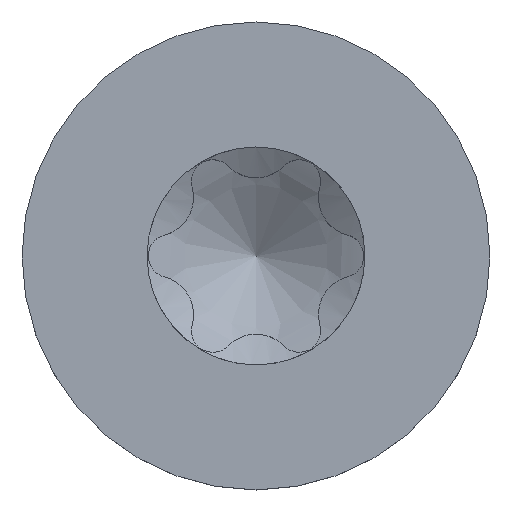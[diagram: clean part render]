
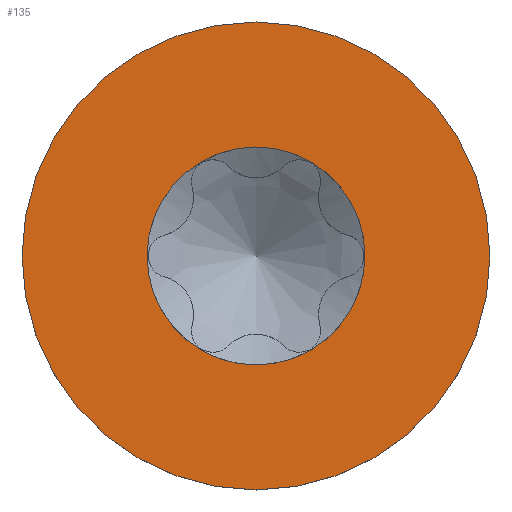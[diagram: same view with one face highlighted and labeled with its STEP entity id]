
A CAD part, top view. The second image highlights one B-rep face of the part: STEP entity #135.
In plain terms, the highlighted planar face has unit normal (0, 0, 1).
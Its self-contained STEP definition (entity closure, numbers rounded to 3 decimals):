
#90=PLANE('',#624);
#117=FACE_BOUND('',#209,.T.);
#118=FACE_BOUND('',#210,.T.);
#135=ADVANCED_FACE('',(#117,#118),#90,.T.);
#209=EDGE_LOOP('',(#286));
#210=EDGE_LOOP('',(#287));
#250=CIRCLE('',#621,1.9);
#251=CIRCLE('',#623,0.885);
#286=ORIENTED_EDGE('',*,*,#500,.T.);
#287=ORIENTED_EDGE('',*,*,#499,.F.);
#439=VERTEX_POINT('',#1172);
#440=VERTEX_POINT('',#1175);
#499=EDGE_CURVE('',#439,#439,#250,.T.);
#500=EDGE_CURVE('',#440,#440,#251,.T.);
#621=AXIS2_PLACEMENT_3D('',#1171,#674,#675);
#623=AXIS2_PLACEMENT_3D('',#1174,#678,#679);
#624=AXIS2_PLACEMENT_3D('',#1176,#680,#681);
#674=DIRECTION('',(0.,0.,-1.));
#675=DIRECTION('',(0.,1.,0.));
#678=DIRECTION('',(0.,0.,-1.));
#679=DIRECTION('',(0.,-1.,0.));
#680=DIRECTION('',(0.,0.,1.));
#681=DIRECTION('',(0.,-1.,0.));
#1171=CARTESIAN_POINT('',(0.,0.,1.5));
#1172=CARTESIAN_POINT('',(0.,1.9,1.5));
#1174=CARTESIAN_POINT('',(0.,0.,1.5));
#1175=CARTESIAN_POINT('',(0.,-0.885,1.5));
#1176=CARTESIAN_POINT('',(0.,1.9,1.5));
